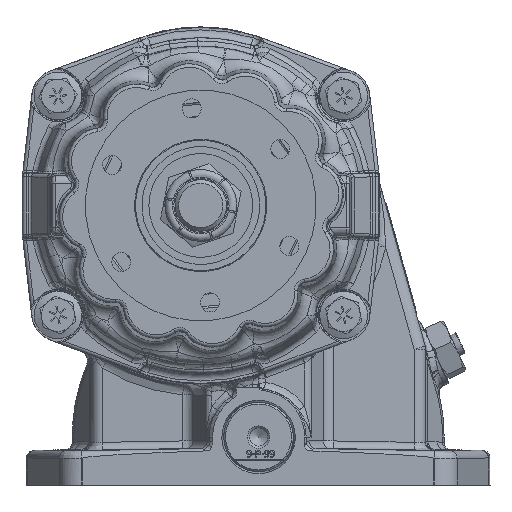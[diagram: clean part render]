
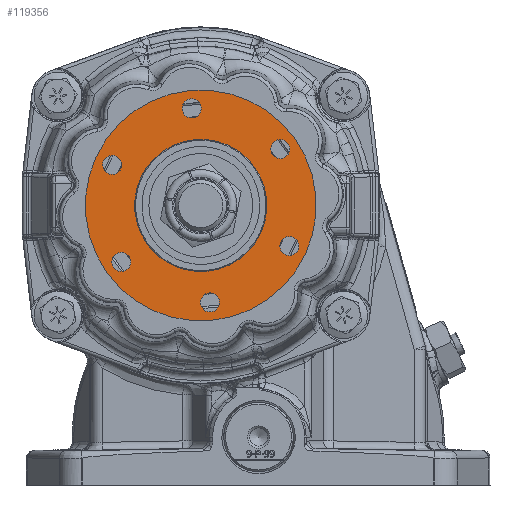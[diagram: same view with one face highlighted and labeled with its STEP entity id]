
A CAD part, left-side view. The second image highlights one B-rep face of the part: STEP entity #119356.
In plain terms, the highlighted planar face has unit normal (-1, 0, 0) as drawn and (1, 0, 0) by its records, which use the part's own axes.
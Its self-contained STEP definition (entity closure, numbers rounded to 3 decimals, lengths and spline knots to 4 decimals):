
#5595=FACE_BOUND('',#19958,.T.);
#5596=FACE_BOUND('',#19959,.T.);
#5597=FACE_BOUND('',#19960,.T.);
#5598=FACE_BOUND('',#19961,.T.);
#5599=FACE_BOUND('',#19962,.T.);
#5600=FACE_BOUND('',#19963,.T.);
#5601=FACE_BOUND('',#19964,.T.);
#7121=PLANE('',#128569);
#12831=FACE_OUTER_BOUND('',#19957,.T.);
#19957=EDGE_LOOP('',(#97117,#97118));
#19958=EDGE_LOOP('',(#97119));
#19959=EDGE_LOOP('',(#97120));
#19960=EDGE_LOOP('',(#97121));
#19961=EDGE_LOOP('',(#97122));
#19962=EDGE_LOOP('',(#97123));
#19963=EDGE_LOOP('',(#97124));
#19964=EDGE_LOOP('',(#97125,#97126));
#25325=CIRCLE('',#128524,0.1615);
#25326=CIRCLE('',#128526,0.1615);
#25327=CIRCLE('',#128528,0.1615);
#25328=CIRCLE('',#128530,0.1615);
#25329=CIRCLE('',#128532,0.1615);
#25330=CIRCLE('',#128534,0.1615);
#25350=CIRCLE('',#128567,1.9585);
#25351=CIRCLE('',#128568,1.9585);
#25352=CIRCLE('',#128570,1.1217);
#25353=CIRCLE('',#128571,1.1217);
#54120=VERTEX_POINT('',#224988);
#54121=VERTEX_POINT('',#224992);
#54122=VERTEX_POINT('',#224996);
#54123=VERTEX_POINT('',#225000);
#54124=VERTEX_POINT('',#225004);
#54125=VERTEX_POINT('',#225008);
#54144=VERTEX_POINT('',#225068);
#54145=VERTEX_POINT('',#225069);
#54146=VERTEX_POINT('',#225074);
#54147=VERTEX_POINT('',#225075);
#68921=EDGE_CURVE('',#54120,#54120,#25325,.T.);
#68923=EDGE_CURVE('',#54121,#54121,#25326,.T.);
#68925=EDGE_CURVE('',#54122,#54122,#25327,.T.);
#68927=EDGE_CURVE('',#54123,#54123,#25328,.T.);
#68929=EDGE_CURVE('',#54124,#54124,#25329,.T.);
#68931=EDGE_CURVE('',#54125,#54125,#25330,.T.);
#68959=EDGE_CURVE('',#54144,#54145,#25350,.T.);
#68960=EDGE_CURVE('',#54145,#54144,#25351,.T.);
#68962=EDGE_CURVE('',#54146,#54147,#25352,.T.);
#68963=EDGE_CURVE('',#54147,#54146,#25353,.T.);
#97117=ORIENTED_EDGE('',*,*,#68959,.T.);
#97118=ORIENTED_EDGE('',*,*,#68960,.T.);
#97119=ORIENTED_EDGE('',*,*,#68921,.T.);
#97120=ORIENTED_EDGE('',*,*,#68923,.T.);
#97121=ORIENTED_EDGE('',*,*,#68925,.T.);
#97122=ORIENTED_EDGE('',*,*,#68927,.T.);
#97123=ORIENTED_EDGE('',*,*,#68929,.T.);
#97124=ORIENTED_EDGE('',*,*,#68931,.T.);
#97125=ORIENTED_EDGE('',*,*,#68962,.F.);
#97126=ORIENTED_EDGE('',*,*,#68963,.F.);
#119356=ADVANCED_FACE('',(#12831,#5595,#5596,#5597,#5598,#5599,#5600,#5601),
#7121,.T.);
#128524=AXIS2_PLACEMENT_3D('',#224989,#148120,#148121);
#128526=AXIS2_PLACEMENT_3D('',#224993,#148125,#148126);
#128528=AXIS2_PLACEMENT_3D('',#224997,#148130,#148131);
#128530=AXIS2_PLACEMENT_3D('',#225001,#148135,#148136);
#128532=AXIS2_PLACEMENT_3D('',#225005,#148140,#148141);
#128534=AXIS2_PLACEMENT_3D('',#225009,#148145,#148146);
#128567=AXIS2_PLACEMENT_3D('',#225070,#148219,#148220);
#128568=AXIS2_PLACEMENT_3D('',#225071,#148221,#148222);
#128569=AXIS2_PLACEMENT_3D('',#225073,#148224,#148225);
#128570=AXIS2_PLACEMENT_3D('',#225076,#148226,#148227);
#128571=AXIS2_PLACEMENT_3D('',#225077,#148228,#148229);
#148120=DIRECTION('center_axis',(-1.,0.,0.));
#148121=DIRECTION('ref_axis',(0.,0.866,0.5));
#148125=DIRECTION('center_axis',(-1.,0.,0.));
#148126=DIRECTION('ref_axis',(0.,0.866,-0.5));
#148130=DIRECTION('center_axis',(-1.,0.,0.));
#148131=DIRECTION('ref_axis',(0.,0.,-1.));
#148135=DIRECTION('center_axis',(-1.,0.,0.));
#148136=DIRECTION('ref_axis',(0.,-0.866,-0.5));
#148140=DIRECTION('center_axis',(-1.,0.,0.));
#148141=DIRECTION('ref_axis',(0.,-0.866,0.5));
#148145=DIRECTION('center_axis',(-1.,0.,0.));
#148146=DIRECTION('ref_axis',(0.,0.,1.));
#148219=DIRECTION('center_axis',(1.,0.,0.));
#148220=DIRECTION('ref_axis',(0.,1.,0.));
#148221=DIRECTION('center_axis',(1.,0.,0.));
#148222=DIRECTION('ref_axis',(0.,1.,0.));
#148224=DIRECTION('center_axis',(1.,0.,0.));
#148225=DIRECTION('ref_axis',(0.,0.,-1.));
#148226=DIRECTION('center_axis',(1.,0.,0.));
#148227=DIRECTION('ref_axis',(0.,1.,0.));
#148228=DIRECTION('center_axis',(1.,0.,0.));
#148229=DIRECTION('ref_axis',(0.,1.,0.));
#224988=CARTESIAN_POINT('',(2.875,0.6869,-1.5127));
#224989=CARTESIAN_POINT('Origin',(2.875,0.8267,-1.432));
#224992=CARTESIAN_POINT('',(2.875,-0.9666,-1.3512));
#224993=CARTESIAN_POINT('Origin',(2.875,-0.8268,-1.432));
#224996=CARTESIAN_POINT('',(2.875,-1.6535,0.1615));
#224997=CARTESIAN_POINT('Origin',(2.875,-1.6535,0.));
#225000=CARTESIAN_POINT('',(2.875,-0.6869,1.5127));
#225001=CARTESIAN_POINT('Origin',(2.875,-0.8268,1.432));
#225004=CARTESIAN_POINT('',(2.875,0.9666,1.3512));
#225005=CARTESIAN_POINT('Origin',(2.875,0.8268,1.432));
#225008=CARTESIAN_POINT('',(2.875,1.6535,-0.1615));
#225009=CARTESIAN_POINT('Origin',(2.875,1.6535,0.));
#225068=CARTESIAN_POINT('',(2.875,1.9585,0.));
#225069=CARTESIAN_POINT('',(2.875,-1.9585,0.));
#225070=CARTESIAN_POINT('Origin',(2.875,0.,0.));
#225071=CARTESIAN_POINT('Origin',(2.875,0.,0.));
#225073=CARTESIAN_POINT('Origin',(2.875,1.5401,0.));
#225074=CARTESIAN_POINT('',(2.875,1.1217,0.));
#225075=CARTESIAN_POINT('',(2.875,-1.1217,0.));
#225076=CARTESIAN_POINT('Origin',(2.875,0.,0.));
#225077=CARTESIAN_POINT('Origin',(2.875,0.,0.));
